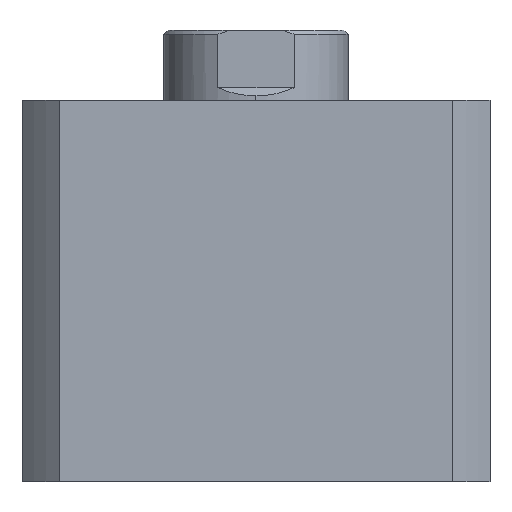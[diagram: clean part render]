
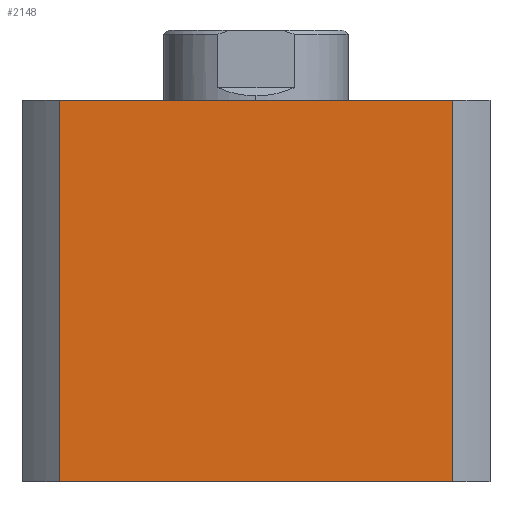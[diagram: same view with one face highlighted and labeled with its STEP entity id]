
A CAD part, left-side view. The second image highlights one B-rep face of the part: STEP entity #2148.
In plain terms, the highlighted planar face has unit normal (-1, 0, 0).
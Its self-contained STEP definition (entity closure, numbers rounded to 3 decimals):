
#102 = DIRECTION ( 'NONE',  ( 0., -1., 0. ) ) ;
#103 = CARTESIAN_POINT ( 'NONE',  ( -57., 0., 93. ) ) ;
#111 = DIRECTION ( 'NONE',  ( 0., 0., -1. ) ) ;
#112 = CARTESIAN_POINT ( 'NONE',  ( -57., 47.971, 93. ) ) ;
#122 = DIRECTION ( 'NONE',  ( 0., 0., -1. ) ) ;
#125 = CARTESIAN_POINT ( 'NONE',  ( -57., -47.971, 93. ) ) ;
#1679 = ORIENTED_EDGE ( 'NONE', *, *, #3131, .T. ) ;
#1680 = ORIENTED_EDGE ( 'NONE', *, *, #3166, .F. ) ;
#1681 = ORIENTED_EDGE ( 'NONE', *, *, #3167, .F. ) ;
#1687 = ORIENTED_EDGE ( 'NONE', *, *, #3164, .T. ) ;
#2148 = ADVANCED_FACE ( 'NONE', ( #4527 ), #2721, .F. ) ;
#2499 = EDGE_LOOP ( 'NONE', ( #1679, #1680, #1681, #1687 ) ) ;
#2703 = DIRECTION ( 'NONE',  ( 0., 0., -1. ) ) ;
#2710 = CARTESIAN_POINT ( 'NONE',  ( -57., 0., 93. ) ) ;
#2721 = PLANE ( 'NONE',  #2973 ) ;
#2731 = DIRECTION ( 'NONE',  ( 1., 0., 0. ) ) ;
#2973 = AXIS2_PLACEMENT_3D ( 'NONE', #2710, #2731, #2703 ) ;
#3131 = EDGE_CURVE ( 'NONE', #5053, #4948, #3229, .T. ) ;
#3164 = EDGE_CURVE ( 'NONE', #4984, #5053, #3271, .T. ) ;
#3166 = EDGE_CURVE ( 'NONE', #4978, #4948, #3275, .T. ) ;
#3167 = EDGE_CURVE ( 'NONE', #4984, #4978, #3276, .T. ) ;
#3229 = LINE ( 'NONE', #3987, #3233 ) ;
#3233 = VECTOR ( 'NONE', #3988, 1000. ) ;
#3271 = LINE ( 'NONE', #112, #3274 ) ;
#3274 = VECTOR ( 'NONE', #111, 1000. ) ;
#3275 = LINE ( 'NONE', #125, #3277 ) ;
#3276 = LINE ( 'NONE', #103, #3279 ) ;
#3277 = VECTOR ( 'NONE', #122, 1000. ) ;
#3279 = VECTOR ( 'NONE', #102, 1000. ) ;
#3499 = CARTESIAN_POINT ( 'NONE',  ( -57., 47.971, 0. ) ) ;
#3987 = CARTESIAN_POINT ( 'NONE',  ( -57., 0., 0. ) ) ;
#3988 = DIRECTION ( 'NONE',  ( 0., -1., 0. ) ) ;
#4527 = FACE_OUTER_BOUND ( 'NONE', #2499, .T. ) ;
#4829 = CARTESIAN_POINT ( 'NONE',  ( -57., 47.971, 93. ) ) ;
#4833 = CARTESIAN_POINT ( 'NONE',  ( -57., -47.971, 93. ) ) ;
#4860 = CARTESIAN_POINT ( 'NONE',  ( -57., -47.971, 0. ) ) ;
#4948 = VERTEX_POINT ( 'NONE', #4860 ) ;
#4978 = VERTEX_POINT ( 'NONE', #4833 ) ;
#4984 = VERTEX_POINT ( 'NONE', #4829 ) ;
#5053 = VERTEX_POINT ( 'NONE', #3499 ) ;
